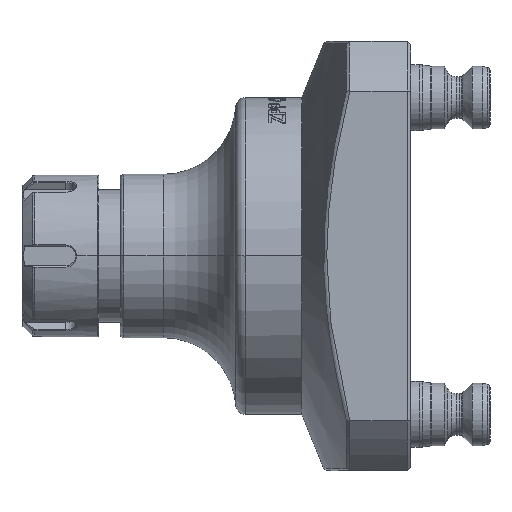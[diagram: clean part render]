
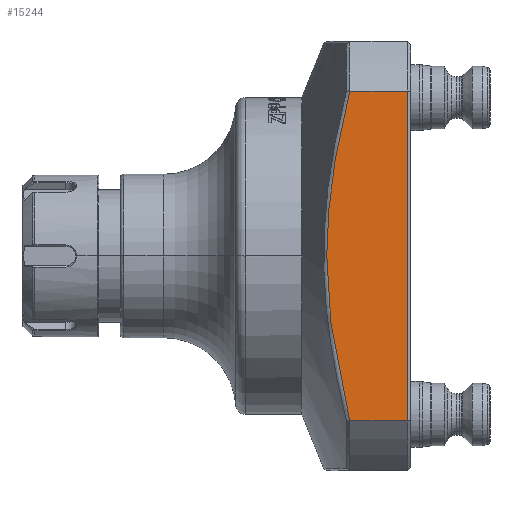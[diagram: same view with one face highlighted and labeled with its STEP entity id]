
A CAD part, left-side view. The second image highlights one B-rep face of the part: STEP entity #15244.
In plain terms, the highlighted planar face has unit normal (-1, 0, 0).
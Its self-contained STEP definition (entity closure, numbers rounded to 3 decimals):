
#13388=CARTESIAN_POINT('',(-65.,-14.496,
49.99));
#13414=CARTESIAN_POINT('',(-65.,-14.496,
-49.99));
#13416=DIRECTION('',(0.,-1.,0.));
#13417=VECTOR('',#13416,17.504);
#13418=CARTESIAN_POINT('',(-65.,-14.496,
-49.99));
#13419=LINE('',#13418,#13417);
#13713=CARTESIAN_POINT('',(-65.,-14.496,
-49.99));
#13714=CARTESIAN_POINT('',(-65.,-14.117,
-48.467));
#13715=CARTESIAN_POINT('',(-65.,-13.36,
-45.334));
#13716=CARTESIAN_POINT('',(-65.,-12.25,
-40.412));
#13717=CARTESIAN_POINT('',(-65.,-11.163,
-35.141));
#13718=CARTESIAN_POINT('',(-65.,-10.096,
-29.31));
#13719=CARTESIAN_POINT('',(-65.,-9.066,
-22.64));
#13720=CARTESIAN_POINT('',(-65.,-8.174,
-14.881));
#13721=CARTESIAN_POINT('',(-65.,-7.656,
-7.344));
#13722=CARTESIAN_POINT('',(-65.,-7.486,
0.016));
#13723=CARTESIAN_POINT('',(-65.,-7.657,
7.368));
#13724=CARTESIAN_POINT('',(-65.,-8.178,
14.93));
#13725=CARTESIAN_POINT('',(-65.,-9.067,
22.644));
#13726=CARTESIAN_POINT('',(-65.,-10.098,
29.322));
#13727=CARTESIAN_POINT('',(-65.,-11.163,
35.14));
#13728=CARTESIAN_POINT('',(-65.,-12.25,
40.41));
#13729=CARTESIAN_POINT('',(-65.,-13.36,
45.335));
#13730=CARTESIAN_POINT('',(-65.,-14.117,
48.467));
#13731=CARTESIAN_POINT('',(-65.,-14.496,
49.99));
#13733=DIRECTION('',(0.,-1.,0.));
#13734=VECTOR('',#13733,17.504);
#13735=CARTESIAN_POINT('',(-65.,-14.496,
49.99));
#13736=LINE('',#13735,#13734);
#13737=DIRECTION('',(0.,0.,-1.));
#13738=VECTOR('',#13737,99.98);
#13739=CARTESIAN_POINT('',(-65.,-32.,
49.99));
#13740=LINE('',#13739,#13738);
#14294=VERTEX_POINT('',#13388);
#14298=CARTESIAN_POINT('',(-65.,-32.,49.99));
#14299=VERTEX_POINT('',#14298);
#14301=VERTEX_POINT('',#13414);
#14304=CARTESIAN_POINT('',(-65.,-32.,
-49.99));
#14305=VERTEX_POINT('',#14304);
#15233=CARTESIAN_POINT('',(-65.,-33.,-65.));
#15234=DIRECTION('',(1.,0.,0.));
#15235=DIRECTION('',(0.,0.,1.));
#15236=AXIS2_PLACEMENT_3D('',#15233,#15234,#15235);
#15237=PLANE('',#15236);
#15238=ORIENTED_EDGE('',*,*,#14739,.T.);
#15239=ORIENTED_EDGE('',*,*,#14633,.T.);
#15240=ORIENTED_EDGE('',*,*,#15226,.T.);
#15241=ORIENTED_EDGE('',*,*,#14754,.F.);
#15242=EDGE_LOOP('',(#15238,#15239,#15240,#15241));
#15243=FACE_OUTER_BOUND('',#15242,.F.);
#15244=ADVANCED_FACE('',(#15243),#15237,.F.);
#13732=B_SPLINE_CURVE_WITH_KNOTS('',3,(#13713,#13714,#13715,#13716,#13717,
#13718,#13719,#13720,#13721,#13722,#13723,#13724,#13725,#13726,#13727,#13728,
#13729,#13730,#13731),.UNSPECIFIED.,.F.,.F.,(4,1,1,1,1,1,1,1,1,1,1,1,1,1,1,1,4),
(0.,0.063,0.125,0.188,0.25,0.313,0.375,0.438,0.5,0.563,
0.625,0.688,0.75,0.813,0.875,0.938,1.),.UNSPECIFIED.);
#14633=EDGE_CURVE('',#14294,#14299,#13736,.T.);
#14739=EDGE_CURVE('',#14301,#14294,#13732,.T.);
#14754=EDGE_CURVE('',#14301,#14305,#13419,.T.);
#15226=EDGE_CURVE('',#14299,#14305,#13740,.T.);
